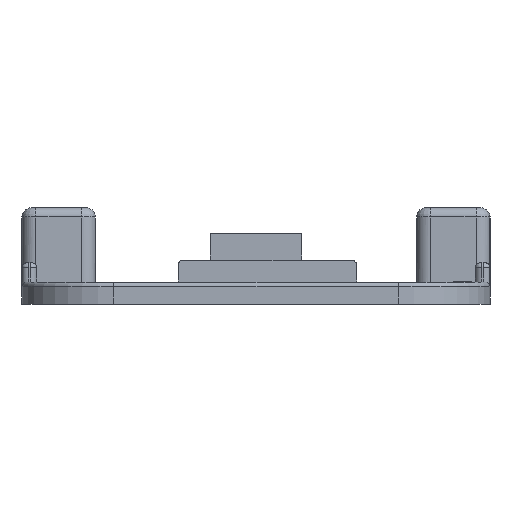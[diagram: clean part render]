
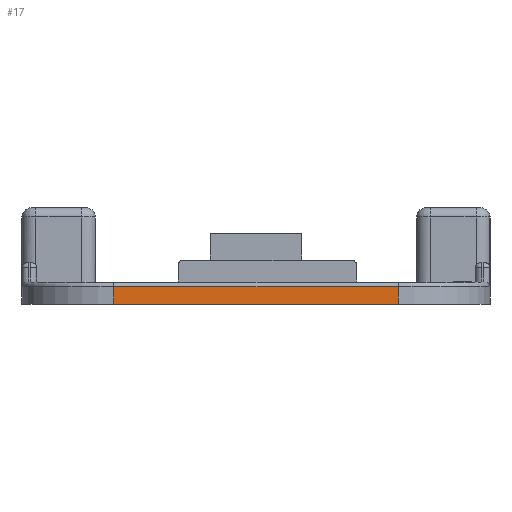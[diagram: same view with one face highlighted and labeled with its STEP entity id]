
A CAD part, left-side view. The second image highlights one B-rep face of the part: STEP entity #17.
In plain terms, the highlighted planar face has unit normal (-1, 0, 0).
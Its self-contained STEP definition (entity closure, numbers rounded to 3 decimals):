
#17 = ADVANCED_FACE('',(#18),#32,.F.);
#18 = FACE_BOUND('',#19,.F.);
#19 = EDGE_LOOP('',(#20,#55,#83,#111));
#20 = ORIENTED_EDGE('',*,*,#21,.F.);
#21 = EDGE_CURVE('',#22,#24,#26,.T.);
#22 = VERTEX_POINT('',#23);
#23 = CARTESIAN_POINT('',(-62.,-15.5,0.));
#24 = VERTEX_POINT('',#25);
#25 = CARTESIAN_POINT('',(-62.,-15.5,1.9));
#26 = SURFACE_CURVE('',#27,(#31,#43),.PCURVE_S1.);
#27 = LINE('',#28,#29);
#28 = CARTESIAN_POINT('',(-62.,-15.5,0.));
#29 = VECTOR('',#30,1.);
#30 = DIRECTION('',(0.,0.,1.));
#31 = PCURVE('',#32,#37);
#32 = PLANE('',#33);
#33 = AXIS2_PLACEMENT_3D('',#34,#35,#36);
#34 = CARTESIAN_POINT('',(-62.,-25.5,0.));
#35 = DIRECTION('',(1.,0.,-0.));
#36 = DIRECTION('',(0.,0.,1.));
#37 = DEFINITIONAL_REPRESENTATION('',(#38),#42);
#38 = LINE('',#39,#40);
#39 = CARTESIAN_POINT('',(0.,-10.));
#40 = VECTOR('',#41,1.);
#41 = DIRECTION('',(1.,0.));
#42 = ( GEOMETRIC_REPRESENTATION_CONTEXT(2) 
PARAMETRIC_REPRESENTATION_CONTEXT() REPRESENTATION_CONTEXT('2D SPACE',''
  ) );
#43 = PCURVE('',#44,#49);
#44 = CYLINDRICAL_SURFACE('',#45,10.);
#45 = AXIS2_PLACEMENT_3D('',#46,#47,#48);
#46 = CARTESIAN_POINT('',(-52.,-15.5,0.));
#47 = DIRECTION('',(0.,0.,1.));
#48 = DIRECTION('',(-1.,-0.,0.));
#49 = DEFINITIONAL_REPRESENTATION('',(#50),#54);
#50 = LINE('',#51,#52);
#51 = CARTESIAN_POINT('',(0.,0.));
#52 = VECTOR('',#53,1.);
#53 = DIRECTION('',(0.,1.));
#54 = ( GEOMETRIC_REPRESENTATION_CONTEXT(2) 
PARAMETRIC_REPRESENTATION_CONTEXT() REPRESENTATION_CONTEXT('2D SPACE',''
  ) );
#55 = ORIENTED_EDGE('',*,*,#56,.T.);
#56 = EDGE_CURVE('',#22,#57,#59,.T.);
#57 = VERTEX_POINT('',#58);
#58 = CARTESIAN_POINT('',(-62.,15.5,0.));
#59 = SURFACE_CURVE('',#60,(#64,#71),.PCURVE_S1.);
#60 = LINE('',#61,#62);
#61 = CARTESIAN_POINT('',(-62.,-25.5,0.));
#62 = VECTOR('',#63,1.);
#63 = DIRECTION('',(-0.,1.,0.));
#64 = PCURVE('',#32,#65);
#65 = DEFINITIONAL_REPRESENTATION('',(#66),#70);
#66 = LINE('',#67,#68);
#67 = CARTESIAN_POINT('',(0.,0.));
#68 = VECTOR('',#69,1.);
#69 = DIRECTION('',(0.,-1.));
#70 = ( GEOMETRIC_REPRESENTATION_CONTEXT(2) 
PARAMETRIC_REPRESENTATION_CONTEXT() REPRESENTATION_CONTEXT('2D SPACE',''
  ) );
#71 = PCURVE('',#72,#77);
#72 = PLANE('',#73);
#73 = AXIS2_PLACEMENT_3D('',#74,#75,#76);
#74 = CARTESIAN_POINT('',(-62.,-25.5,0.));
#75 = DIRECTION('',(0.,0.,1.));
#76 = DIRECTION('',(1.,0.,-0.));
#77 = DEFINITIONAL_REPRESENTATION('',(#78),#82);
#78 = LINE('',#79,#80);
#79 = CARTESIAN_POINT('',(0.,0.));
#80 = VECTOR('',#81,1.);
#81 = DIRECTION('',(0.,1.));
#82 = ( GEOMETRIC_REPRESENTATION_CONTEXT(2) 
PARAMETRIC_REPRESENTATION_CONTEXT() REPRESENTATION_CONTEXT('2D SPACE',''
  ) );
#83 = ORIENTED_EDGE('',*,*,#84,.T.);
#84 = EDGE_CURVE('',#57,#85,#87,.T.);
#85 = VERTEX_POINT('',#86);
#86 = CARTESIAN_POINT('',(-62.,15.5,1.9));
#87 = SURFACE_CURVE('',#88,(#92,#99),.PCURVE_S1.);
#88 = LINE('',#89,#90);
#89 = CARTESIAN_POINT('',(-62.,15.5,0.));
#90 = VECTOR('',#91,1.);
#91 = DIRECTION('',(0.,0.,1.));
#92 = PCURVE('',#32,#93);
#93 = DEFINITIONAL_REPRESENTATION('',(#94),#98);
#94 = LINE('',#95,#96);
#95 = CARTESIAN_POINT('',(0.,-41.));
#96 = VECTOR('',#97,1.);
#97 = DIRECTION('',(1.,0.));
#98 = ( GEOMETRIC_REPRESENTATION_CONTEXT(2) 
PARAMETRIC_REPRESENTATION_CONTEXT() REPRESENTATION_CONTEXT('2D SPACE',''
  ) );
#99 = PCURVE('',#100,#105);
#100 = CYLINDRICAL_SURFACE('',#101,10.);
#101 = AXIS2_PLACEMENT_3D('',#102,#103,#104);
#102 = CARTESIAN_POINT('',(-52.,15.5,0.));
#103 = DIRECTION('',(0.,0.,1.));
#104 = DIRECTION('',(-1.,-0.,0.));
#105 = DEFINITIONAL_REPRESENTATION('',(#106),#110);
#106 = LINE('',#107,#108);
#107 = CARTESIAN_POINT('',(-0.,0.));
#108 = VECTOR('',#109,1.);
#109 = DIRECTION('',(-0.,1.));
#110 = ( GEOMETRIC_REPRESENTATION_CONTEXT(2) 
PARAMETRIC_REPRESENTATION_CONTEXT() REPRESENTATION_CONTEXT('2D SPACE',''
  ) );
#111 = ORIENTED_EDGE('',*,*,#112,.F.);
#112 = EDGE_CURVE('',#24,#85,#113,.T.);
#113 = SURFACE_CURVE('',#114,(#118,#125),.PCURVE_S1.);
#114 = LINE('',#115,#116);
#115 = CARTESIAN_POINT('',(-62.,-15.5,1.9));
#116 = VECTOR('',#117,1.);
#117 = DIRECTION('',(-0.,1.,0.));
#118 = PCURVE('',#32,#119);
#119 = DEFINITIONAL_REPRESENTATION('',(#120),#124);
#120 = LINE('',#121,#122);
#121 = CARTESIAN_POINT('',(1.9,-10.));
#122 = VECTOR('',#123,1.);
#123 = DIRECTION('',(0.,-1.));
#124 = ( GEOMETRIC_REPRESENTATION_CONTEXT(2) 
PARAMETRIC_REPRESENTATION_CONTEXT() REPRESENTATION_CONTEXT('2D SPACE',''
  ) );
#125 = PCURVE('',#126,#131);
#126 = CYLINDRICAL_SURFACE('',#127,0.5);
#127 = AXIS2_PLACEMENT_3D('',#128,#129,#130);
#128 = CARTESIAN_POINT('',(-61.5,-15.5,1.9));
#129 = DIRECTION('',(-0.,1.,0.));
#130 = DIRECTION('',(-1.,-0.,0.));
#131 = DEFINITIONAL_REPRESENTATION('',(#132),#136);
#132 = LINE('',#133,#134);
#133 = CARTESIAN_POINT('',(0.,0.));
#134 = VECTOR('',#135,1.);
#135 = DIRECTION('',(0.,1.));
#136 = ( GEOMETRIC_REPRESENTATION_CONTEXT(2) 
PARAMETRIC_REPRESENTATION_CONTEXT() REPRESENTATION_CONTEXT('2D SPACE',''
  ) );
